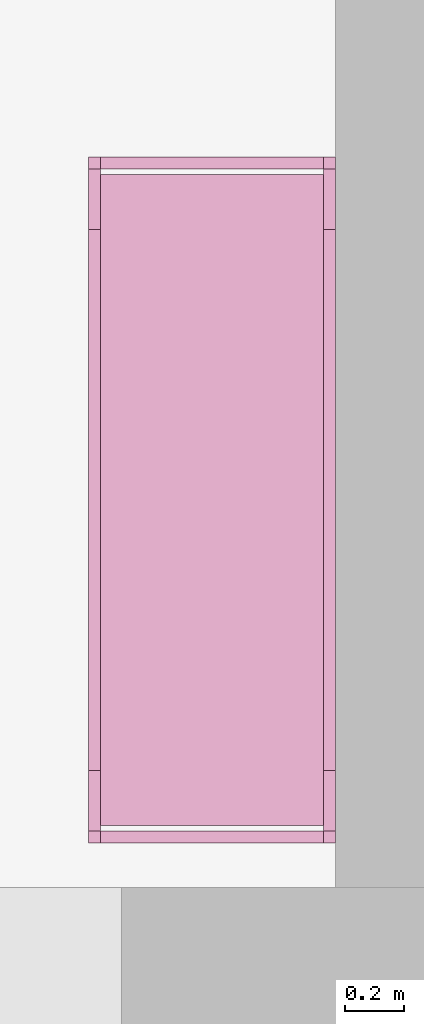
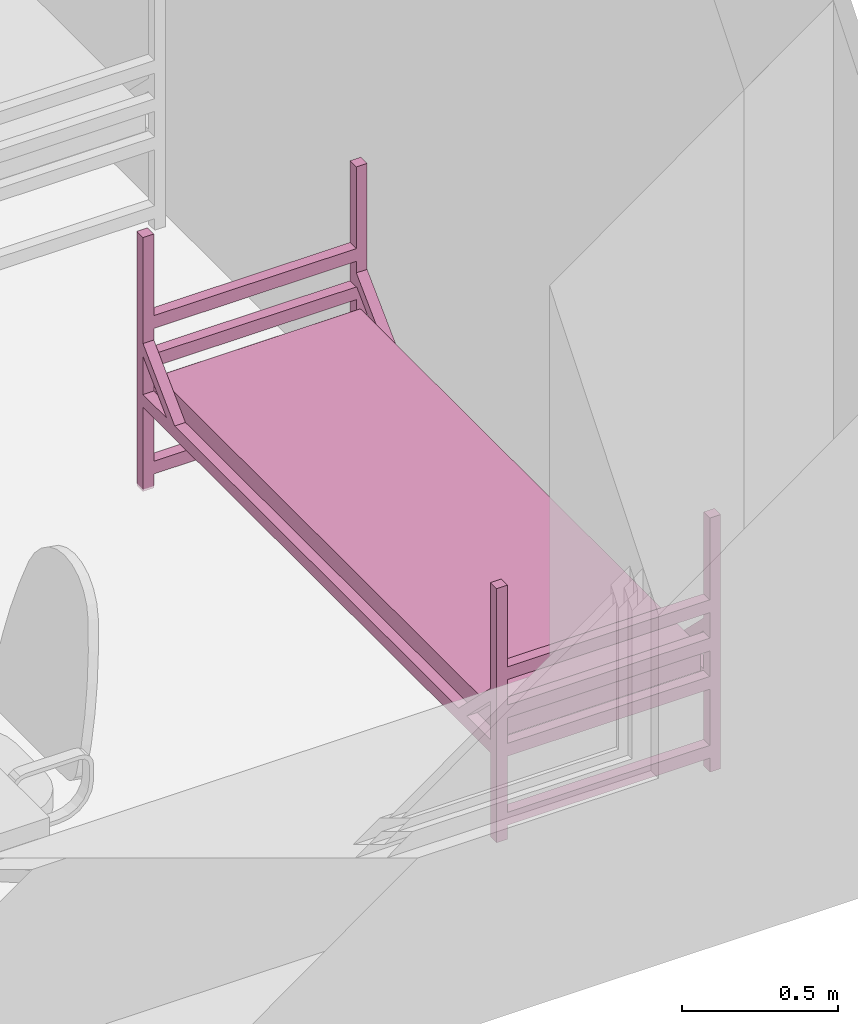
# One storey, part 32 of 46: 1 furnishing.
"""IFC2X3 building model written with IfcOpenShell, lengths in millimetres."""

from ifc_helpers import new_model, entity, si_unit, converted_unit, derived_unit, direction, frame, frame_2d, origin, place, context, subcontext, project, spatial, polyline, circle_curve, parameter, trimmed, segment, composite_curve, rectangle, outline, extrude, source, transform, mapped, material, type_object, type_shapes, element, save


model = new_model("IFC2X3")

# Units and contexts
model_context = context("Model", 3, precision=0.01, world=origin(), true_north=direction((6.12303176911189e-17, 1.0)))
body_context = subcontext(model_context, "Body", "Model", "MODEL_VIEW")
ifc_project = project(units=[si_unit("LENGTHUNIT", "METRE", prefix="MILLI"), si_unit("AREAUNIT", "SQUARE_METRE"), si_unit("VOLUMEUNIT", "CUBIC_METRE"), converted_unit("PLANEANGLEUNIT", "DEGREE", entity("IfcRatioMeasure", 0.0174532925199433), si_unit("PLANEANGLEUNIT", "RADIAN"), dimensions=[0, 0, 0, 0, 0, 0, 0]), si_unit("MASSUNIT", "GRAM", prefix="KILO"), derived_unit("MASSDENSITYUNIT", [(si_unit("MASSUNIT", "GRAM", prefix="KILO"), 1), (si_unit("LENGTHUNIT", "METRE"), -3)]), si_unit("TIMEUNIT", "SECOND"), si_unit("FREQUENCYUNIT", "HERTZ"), si_unit("THERMODYNAMICTEMPERATUREUNIT", "DEGREE_CELSIUS"), derived_unit("THERMALTRANSMITTANCEUNIT", [(si_unit("MASSUNIT", "GRAM", prefix="KILO"), 1), (si_unit("THERMODYNAMICTEMPERATUREUNIT", "KELVIN"), -1), (si_unit("TIMEUNIT", "SECOND"), -3)]), derived_unit("VOLUMETRICFLOWRATEUNIT", [(si_unit("LENGTHUNIT", "METRE"), 3), (si_unit("TIMEUNIT", "SECOND"), -1)]), si_unit("ELECTRICCURRENTUNIT", "AMPERE"), si_unit("ELECTRICVOLTAGEUNIT", "VOLT"), si_unit("POWERUNIT", "WATT"), si_unit("FORCEUNIT", "NEWTON", prefix="KILO"), si_unit("ILLUMINANCEUNIT", "LUX"), si_unit("LUMINOUSFLUXUNIT", "LUMEN"), si_unit("LUMINOUSINTENSITYUNIT", "CANDELA"), derived_unit("USERDEFINED", [(si_unit("MASSUNIT", "GRAM", prefix="KILO"), -1), (si_unit("LENGTHUNIT", "METRE"), -2), (si_unit("TIMEUNIT", "SECOND"), 3), (si_unit("LUMINOUSFLUXUNIT", "LUMEN"), 1)]), derived_unit("LINEARVELOCITYUNIT", [(si_unit("LENGTHUNIT", "METRE"), 1), (si_unit("TIMEUNIT", "SECOND"), -1)]), si_unit("PRESSUREUNIT", "PASCAL"), derived_unit("USERDEFINED", [(si_unit("LENGTHUNIT", "METRE"), -2), (si_unit("MASSUNIT", "GRAM", prefix="KILO"), 1), (si_unit("TIMEUNIT", "SECOND"), -2)]), derived_unit("LINEARFORCEUNIT", [(si_unit("MASSUNIT", "GRAM", prefix="KILO"), 1), (si_unit("LENGTHUNIT", "METRE"), 1), (si_unit("TIMEUNIT", "SECOND"), -2), (si_unit("LENGTHUNIT", "METRE"), -1)]), derived_unit("PLANARFORCEUNIT", [(si_unit("MASSUNIT", "GRAM", prefix="KILO"), 1), (si_unit("LENGTHUNIT", "METRE"), 1), (si_unit("TIMEUNIT", "SECOND"), -2), (si_unit("LENGTHUNIT", "METRE"), -2)])], contexts=[model_context])

# Site, building, storey, space
site_placement = place(None, origin())
site = spatial("IfcSite", under=ifc_project, at=site_placement, Name="Default", CompositionType="ELEMENT")
building_placement = place(site_placement, origin())
building = spatial("IfcBuilding", under=site, at=building_placement, Name="SMA ARH", CompositionType="ELEMENT")
storey_placement = place(building_placement, frame((0.0, 0.0, 9910.0)))
storey = spatial("IfcBuildingStorey", under=building, at=storey_placement, Name="4 Korrus", CompositionType="ELEMENT", Elevation=9909.9999999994)
space_placement = place(storey_placement, origin())
space = spatial("IfcSpace", under=storey, at=space_placement, Name="4-6", CompositionType="ELEMENT", InteriorOrExteriorSpace="INTERNAL")

# Furnishing
ifc_material = material(Name="Madrats")
furniture_type = type_object("IfcFurnitureType", Name="Kasarmu voodi ühekordne 2308x830:Kasarmu voodi ühekordne 2308x830", material=ifc_material)
shared_shape = source(origin(), body_context, "Body", "SweptSolid", [
    extrude(rectangle(XDim=39.9999999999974, YDim=750.000000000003, at=frame_2d((-1.35003119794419e-13, -2.8421709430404e-14), x_axis=(1.0, 0.0))), frame((1.68638457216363, -1226.7969571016, 55.0), z_axis=(0.0, 0.0, 1.0), x_axis=(0.0, -1.0, 0.0)), (0.0, 0.0, 1.0), 49.9999999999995),
    extrude(rectangle(XDim=39.9999999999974, YDim=750.000000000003, at=frame_2d((-1.35003119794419e-13, -2.8421709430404e-14), x_axis=(1.0, 0.0))), frame((1.68638457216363, -1226.7969571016, 325.0), z_axis=(0.0, 0.0, 1.0), x_axis=(0.0, -1.0, 0.0)), (0.0, 0.0, 1.0), 49.9999999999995),
    extrude(rectangle(XDim=39.9999999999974, YDim=750.000000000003, at=frame_2d((-1.35003119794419e-13, -2.8421709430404e-14), x_axis=(1.0, 0.0))), frame((1.68638457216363, -1226.7969571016, 475.0), z_axis=(0.0, 0.0, 1.0), x_axis=(0.0, -1.0, 0.0)), (0.0, 0.0, 1.0), 49.9999999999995),
    extrude(rectangle(XDim=39.9999999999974, YDim=750.000000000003, at=frame_2d((-1.35003119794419e-13, -2.8421709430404e-14), x_axis=(1.0, 0.0))), frame((1.68638457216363, -1226.7969571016, 625.0), z_axis=(0.0, 0.0, 1.0), x_axis=(0.0, -1.0, 0.0)), (0.0, 0.0, 1.0), 50.0000000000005),
    extrude(rectangle(XDim=39.9999999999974, YDim=750.000000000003, at=frame_2d((1.35003119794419e-13, -2.8421709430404e-14), x_axis=(1.0, 0.0))), frame((1.68638457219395, 1041.2030428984, 55.0), z_axis=(0.0, 0.0, 1.0), x_axis=(0.0, -1.0, 0.0)), (0.0, 0.0, 1.0), 50.0000000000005),
    extrude(rectangle(XDim=39.9999999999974, YDim=750.000000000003, at=frame_2d((1.35003119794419e-13, -2.8421709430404e-14), x_axis=(1.0, 0.0))), frame((1.68638457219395, 1041.2030428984, 325.0), z_axis=(0.0, 0.0, 1.0), x_axis=(0.0, -1.0, 0.0)), (0.0, 0.0, 1.0), 50.0000000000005),
    extrude(rectangle(XDim=39.9999999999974, YDim=750.000000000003, at=frame_2d((1.35003119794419e-13, -2.8421709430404e-14), x_axis=(1.0, 0.0))), frame((1.68638457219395, 1041.2030428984, 475.0), z_axis=(0.0, 0.0, 1.0), x_axis=(0.0, -1.0, 0.0)), (0.0, 0.0, 1.0), 50.0000000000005),
    extrude(rectangle(XDim=39.9999999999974, YDim=750.000000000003, at=frame_2d((1.35003119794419e-13, -2.8421709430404e-14), x_axis=(1.0, 0.0))), frame((1.68638457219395, 1041.2030428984, 625.0), z_axis=(0.0, 0.0, 1.0), x_axis=(0.0, -1.0, 0.0)), (0.0, 0.0, 1.0), 49.9999999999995),
    extrude(outline(composite_curve([segment(trimmed(circle_curve(frame_2d((1085.0, -40.0), x_axis=(1.0, 0.0)), 10.0), [parameter(270.0)], [parameter(0.0)], True, "PARAMETER"), True, "CONTINUOUS"), segment(polyline([(1095.0, -40.0), (1095.0, 40.0)]), True, "CONTINUOUS"), segment(trimmed(circle_curve(frame_2d((1085.0, 40.0), x_axis=(1.0, 0.0)), 10.0), [parameter(0.0)], [parameter(90.0000000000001)], True, "PARAMETER"), True, "CONTINUOUS"), segment(polyline([(1085.0, 50.0), (-1085.0, 50.0)]), True, "CONTINUOUS"), segment(trimmed(circle_curve(frame_2d((-1085.0, 40.0), x_axis=(1.0, 0.0)), 10.0), [parameter(90.0000000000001)], [parameter(180.0)], True, "PARAMETER"), True, "CONTINUOUS"), segment(polyline([(-1095.0, 40.0), (-1095.0, -40.0)]), True, "CONTINUOUS"), segment(trimmed(circle_curve(frame_2d((-1085.0, -40.0), x_axis=(1.0, 0.0)), 10.0), [parameter(180.0)], [parameter(270.0)], True, "PARAMETER"), True, "CONTINUOUS"), segment(polyline([(-1085.0, -50.0), (1085.0, -50.0)]), True, "CONTINUOUS")], self_intersect=False)), frame((-373.313615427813, -92.7969571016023, 405.0), z_axis=(1.0, 0.0, 0.0), x_axis=(0.0, -1.0, 0.0)), (0.0, 0.0, 1.0), 750.000000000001),
    extrude(outline(polyline([(-1114.0, -100.0), (1114.0, -100.0), (1114.0, -50.0), (961.59199141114, -50.0), (1114.0, 100.0), (1114.0, 150.0), (910.789321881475, -50.0), (-910.789321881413, -50.0), (-1114.0, 150.0), (-1114.0, 100.0), (-961.591991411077, -50.0), (-1114.0, -50.0), (-1114.0, -100.0)])), frame((-413.313615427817, -92.7969571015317, 430.0), z_axis=(1.0, 0.0, 0.0), x_axis=(0.0, 1.0, 0.0)), (0.0, 0.0, 1.0), 39.9999999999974),
    extrude(outline(polyline([(-1114.0, -100.0), (1114.0, -100.0), (1114.0, -50.0), (961.591991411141, -50.0), (1114.0, 100.0), (1114.0, 150.0), (910.789321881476, -50.0), (-910.789321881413, -50.0), (-1114.0, 150.0), (-1114.0, 100.0), (-961.591991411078, -50.0), (-1114.0, -50.0), (-1114.0, -100.0)])), frame((376.686384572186, -92.796957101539, 430.0), z_axis=(1.0, 0.0, 0.0), x_axis=(0.0, 1.0, 0.0)), (0.0, 0.0, 1.0), 39.9999999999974),
    extrude(rectangle(XDim=39.9999999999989, YDim=39.9999999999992, at=frame_2d((-6.75015598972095e-14, 0.0), x_axis=(1.0, 0.0))), frame((396.686384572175, -1226.79695710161, 0.0), z_axis=(0.0, 0.0, 1.0), x_axis=(0.0, 1.0, 0.0)), (0.0, 0.0, 1.0), 995.0),
    extrude(rectangle(XDim=39.9999999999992, YDim=39.9999999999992, at=frame_2d((-1.35003119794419e-13, 0.0), x_axis=(1.0, 0.0))), frame((396.686384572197, 1041.20304289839, 0.0), z_axis=(0.0, 0.0, 1.0), x_axis=(0.0, 1.0, 0.0)), (0.0, 0.0, 1.0), 995.0),
    extrude(rectangle(XDim=40.0000000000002, YDim=39.9999999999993, at=frame_2d((-1.35003119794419e-13, 0.0), x_axis=(1.0, 0.0))), frame((-393.313615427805, 1041.2030428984, 0.0), z_axis=(0.0, 0.0, 1.0), x_axis=(0.0, 1.0, 0.0)), (0.0, 0.0, 1.0), 995.0),
    extrude(rectangle(XDim=39.9999999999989, YDim=39.9999999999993, at=frame_2d((-6.75015598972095e-14, 0.0), x_axis=(1.0, 0.0))), frame((-393.313615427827, -1226.7969571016, 0.0), z_axis=(0.0, 0.0, 1.0), x_axis=(0.0, 1.0, 0.0)), (0.0, 0.0, 1.0), 995.0),
])
type_shapes(furniture_type, [shared_shape])
furnishing_placement = place(space_placement, frame((30033.3136154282, 1396.79695710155, 0.0)))
element("IfcFurnishingElement", 1, at=furnishing_placement, inside=space, type_object=furniture_type, material=ifc_material, Name="Kasarmu voodi ühekordne 2308x830:Kasarmu voodi ühekordne 2308x830", ObjectType="Kasarmu voodi ühekordne 2308x830:Kasarmu voodi ühekordne 2308x830", context=body_context, shape_type="MappedRepresentation", body=[
    mapped(shared_shape, transform((0.0, 0.0, 0.0), scale=1.0)),
])

save(model, "model.ifc")
